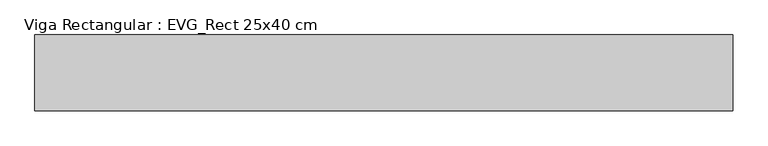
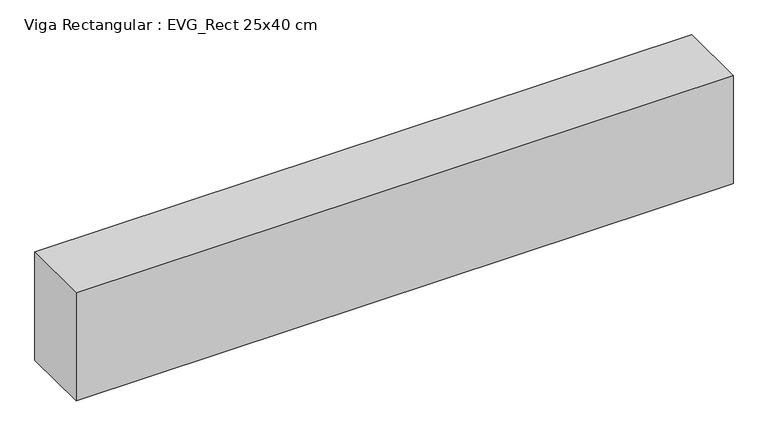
"""IFC4 building model written with IfcOpenShell, lengths in millimetres: beam geometry, Viga Rectangular : EVG_Rect 25x40 cm."""

from ifc_helpers import new_model, si_unit, frame, origin, place, context, project, spatial, polyline, outline, extrude, source, transform, mapped, element, save


def viga_rectangular_evg_rect_25x40_cm_961303b6(model_context):
    return source(origin(), model_context, "Body", "SweptSolid", [
        extrude(outline(polyline([(1275.0, 125.0), (1275.0, -125.0), (-1025.0, -125.0), (-1025.0, 125.0), (1275.0, 125.0)])), frame((0.0, 0.0, -400.0), z_axis=(0.0, 0.0, 1.0), x_axis=(1.0, 0.0, 0.0)), (0.0, 0.0, 1.0), 400.0),
    ])


if __name__ == "__main__":
    model = new_model("IFC4")
    model_context = context("Model", 3, world=origin())
    ifc_project = project(units=[si_unit("LENGTHUNIT", "METRE", prefix="MILLI")], contexts=[model_context])
    site = spatial("IfcSite", under=ifc_project)
    building = spatial("IfcBuilding", under=site)
    placement = place(None, origin())
    viga_rectangular_evg_rect_25x40_cm_shape = viga_rectangular_evg_rect_25x40_cm_961303b6(model_context)
    element("IfcBeam", 1, ObjectType="Viga Rectangular : EVG_Rect 25x40 cm", at=placement, inside=building, context=model_context, shape_type="MappedRepresentation", body=[
        mapped(viga_rectangular_evg_rect_25x40_cm_shape, transform((0.0, 0.0, 0.0), x_axis=(1.0, 0.0, 0.0), y_axis=(0.0, 1.0, 0.0), z_axis=(0.0, 0.0, 1.0))),
    ])
    save(model, "model.ifc")
